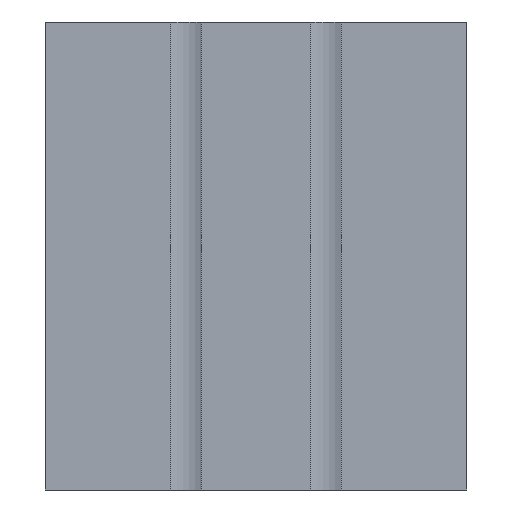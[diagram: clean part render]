
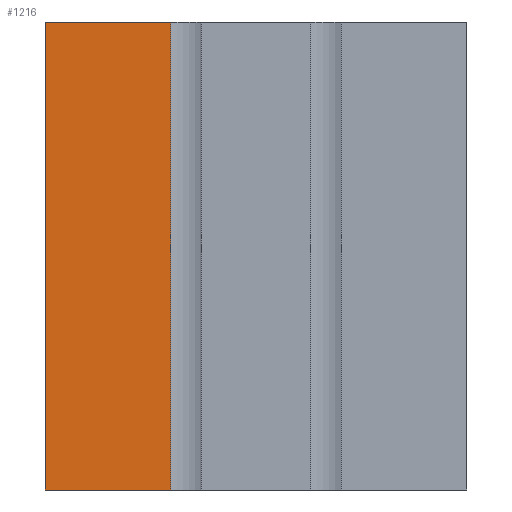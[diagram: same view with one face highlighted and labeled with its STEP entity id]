
A CAD part, front view. The second image highlights one B-rep face of the part: STEP entity #1216.
In plain terms, the highlighted planar face has unit normal (0, -1, 0).
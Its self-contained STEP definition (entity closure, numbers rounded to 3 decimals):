
#35=ORIENTED_EDGE('',*,*,#395,.F.);
#36=ORIENTED_EDGE('',*,*,#396,.F.);
#37=ORIENTED_EDGE('',*,*,#397,.F.);
#38=ORIENTED_EDGE('',*,*,#398,.F.);
#395=EDGE_CURVE('',#575,#576,#695,.T.);
#396=EDGE_CURVE('',#577,#575,#696,.T.);
#397=EDGE_CURVE('',#578,#577,#697,.T.);
#398=EDGE_CURVE('',#576,#578,#698,.T.);
#575=VERTEX_POINT('',#1682);
#576=VERTEX_POINT('',#1683);
#577=VERTEX_POINT('',#1685);
#578=VERTEX_POINT('',#1687);
#695=LINE('',#1681,#865);
#696=LINE('',#1684,#866);
#697=LINE('',#1686,#867);
#698=LINE('',#1688,#868);
#865=VECTOR('',#1367,1000.);
#866=VECTOR('',#1368,1000.);
#867=VECTOR('',#1369,1000.);
#868=VECTOR('',#1370,1000.);
#1035=EDGE_LOOP('',(#35,#36,#37,#38));
#1097=FACE_BOUND('',#1035,.T.);
#1159=PLANE('',#1291);
#1216=ADVANCED_FACE('',(#1097),#1159,.T.);
#1291=AXIS2_PLACEMENT_3D('',#1680,#1365,#1366);
#1365=DIRECTION('',(0.,-1.,0.));
#1366=DIRECTION('',(1.,0.,0.));
#1367=DIRECTION('',(1.,0.,0.));
#1368=DIRECTION('',(0.,0.,1.));
#1369=DIRECTION('',(-1.,0.,0.));
#1370=DIRECTION('',(0.,0.,-1.));
#1680=CARTESIAN_POINT('',(-45.,-7.5,0.));
#1681=CARTESIAN_POINT('',(-18.25,-7.5,50.));
#1682=CARTESIAN_POINT('',(-45.,-7.5,50.));
#1683=CARTESIAN_POINT('',(-18.25,-7.5,50.));
#1684=CARTESIAN_POINT('',(-45.,-7.5,-150.));
#1685=CARTESIAN_POINT('',(-45.,-7.5,-50.));
#1686=CARTESIAN_POINT('',(-18.25,-7.5,-50.));
#1687=CARTESIAN_POINT('',(-18.25,-7.5,-50.));
#1688=CARTESIAN_POINT('',(-18.25,-7.5,0.));
